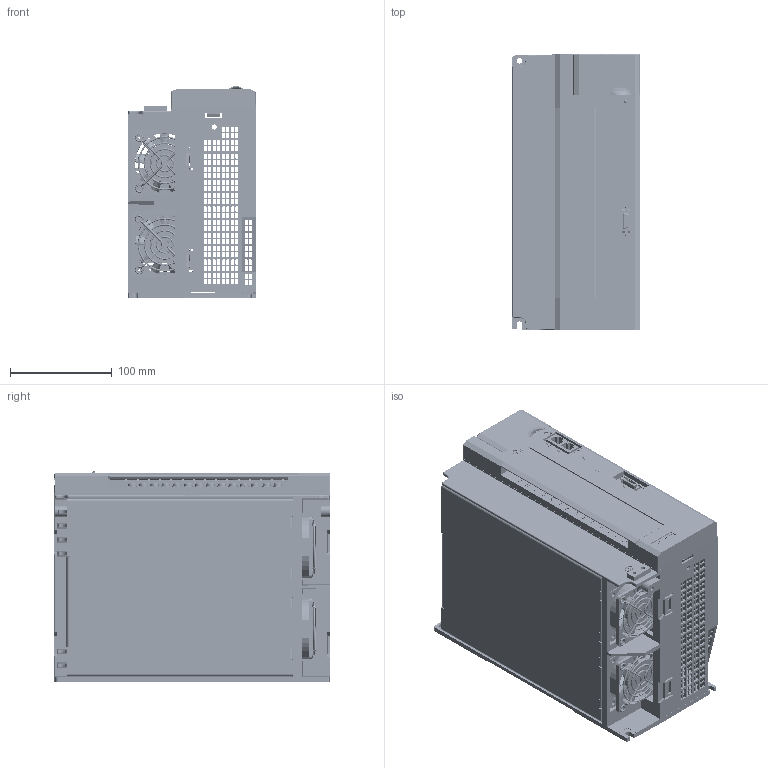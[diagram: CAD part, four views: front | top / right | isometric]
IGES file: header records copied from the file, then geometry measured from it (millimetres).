
Start section: SolidWorks IGES file using analytic representation for surfaces
Global section: file name: Z:\Products\Servo\Servo Drive\PRONET-30AEG-EC\UMD-00[30-50]C-B3_UMD-00[30-50]E-B3 CAD Files\UMD-00[30-50]C-B3_UMD-00[30-50]E-B3.IGS; native system: SolidWorks 2017; preprocessor: SolidWorks 2017; author: laorb; date: 190417.154053; units: millimetre
Bounding box: 125 x 271 x 207.86 mm (x, y, z)
Surface area: 630691.3 mm2 (no closed solid volume)
Topology: 0 solids, 0 shells, 7137 faces, 70505 edges, 70499 vertices
Faces by surface type: bspline 4786, revolution 2351
